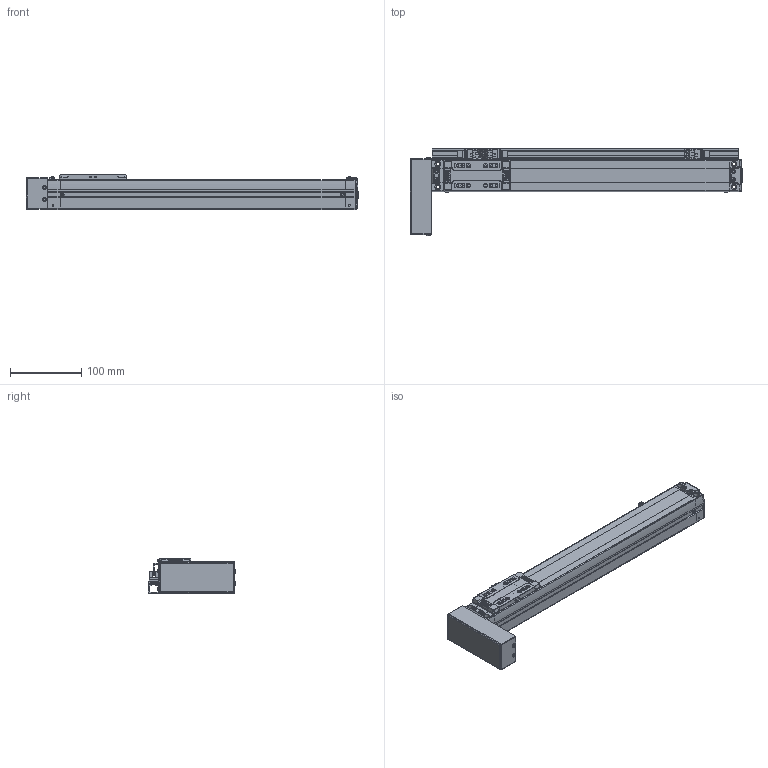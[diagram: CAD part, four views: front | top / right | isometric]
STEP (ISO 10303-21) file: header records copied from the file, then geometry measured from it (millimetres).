
FILE_DESCRIPTION(('STEP AP214'),'1');
FILE_NAME('Z:/Web/3D/SAN45/2013.ver/STP/SAN45ㅁㅁ-300PR+3SL.stp','2013-05-15T11:43:41',(' '),(' '),'Spatial InterOp 3D',' ',' ');
FILE_SCHEMA(('automotive_design'));
Length unit declared in the file: millimetre
Products named in the file (46): BODY-SAN45; REAR-SAN45; RRCV-SAN45; BHCS M3 x 6L; BHCS M3 X 6L; FRONT-SAN45; SHAFT; RN8 x 0.75; SSFX-SAN45; SLIDE-SAN45; SLCV-IM45; FHCS M3 x 6L; BTCV-SAN45; SRL-16x17-380L; EE-SX674; SBK-SX674-352; SDG-SA45; SCREW M3 x 5L
Bounding box: 466.15 x 123.06 x 50 mm (x, y, z)
Volume: 976233.1 mm3; surface area: 206449.9 mm2
Topology: 46 solids, 46 shells, 2336 faces, 6035 edges, 3873 vertices
Faces by surface type: plane 1288, cylinder 732, cone 150, sphere 84, bspline 44, torus 32, extrusion 6
Entity records: 94592 total; most frequent: CARTESIAN_POINT 16863, DIRECTION 12557, ORIENTED_EDGE 11922, EDGE_CURVE 5961, AXIS2_PLACEMENT_3D 4386, VERTEX_POINT 3873, VECTOR 3785, LINE 3779
